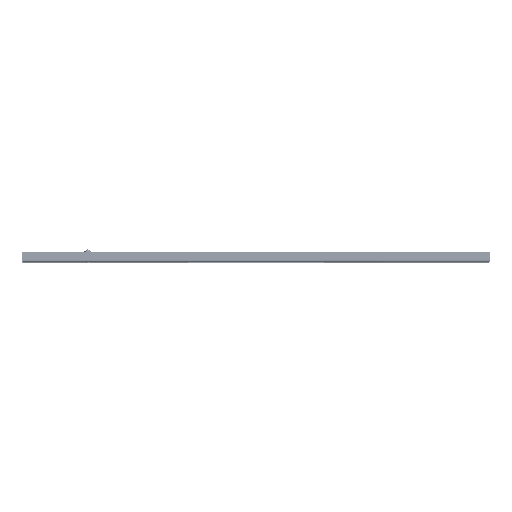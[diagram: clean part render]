
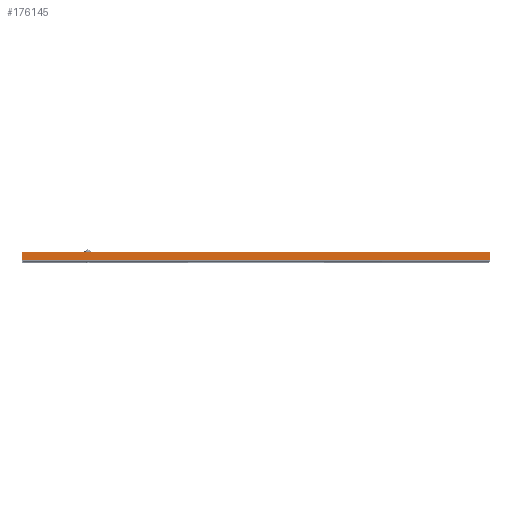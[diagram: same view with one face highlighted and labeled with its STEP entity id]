
A CAD part, top view. The second image highlights one B-rep face of the part: STEP entity #176145.
In plain terms, the highlighted planar face has unit normal (0, 0, 1).
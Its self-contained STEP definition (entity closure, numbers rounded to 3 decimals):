
#33668 = VERTEX_POINT ( 'NONE', #141248 ) ;
#33671 = VERTEX_POINT ( 'NONE', #141249 ) ;
#33682 = VERTEX_POINT ( 'NONE', #141254 ) ;
#33685 = VERTEX_POINT ( 'NONE', #141247 ) ;
#72986 = CARTESIAN_POINT ( 'NONE',  ( -15.586, 0.63, 17.693 ) ) ;
#73061 = DIRECTION ( 'NONE',  ( -1., 0., 0. ) ) ;
#73089 = CARTESIAN_POINT ( 'NONE',  ( 15.566, 0.06, 17.693 ) ) ;
#73091 = DIRECTION ( 'NONE',  ( 0., 1., 0. ) ) ;
#73099 = CARTESIAN_POINT ( 'NONE',  ( -15.587, 0.06, 17.693 ) ) ;
#73101 = DIRECTION ( 'NONE',  ( -1., 0., 0. ) ) ;
#73109 = CARTESIAN_POINT ( 'NONE',  ( -15.566, 0.06, 17.693 ) ) ;
#73111 = DIRECTION ( 'NONE',  ( 0., 1., 0. ) ) ;
#73692 = VECTOR ( 'NONE', #73061, 39.37 ) ;
#73699 = LINE ( 'NONE', #72986, #73692 ) ;
#73709 = LINE ( 'NONE', #73089, #73710 ) ;
#73710 = VECTOR ( 'NONE', #73091, 39.37 ) ;
#73713 = LINE ( 'NONE', #73099, #73714 ) ;
#73714 = VECTOR ( 'NONE', #73101, 39.37 ) ;
#73717 = LINE ( 'NONE', #73109, #73718 ) ;
#73718 = VECTOR ( 'NONE', #73111, 39.37 ) ;
#136123 = FACE_OUTER_BOUND ( 'NONE', #220926, .T. ) ;
#141247 = CARTESIAN_POINT ( 'NONE',  ( -15.566, 0.06, 17.693 ) ) ;
#141248 = CARTESIAN_POINT ( 'NONE',  ( 15.566, 0.63, 17.693 ) ) ;
#141249 = CARTESIAN_POINT ( 'NONE',  ( -15.566, 0.63, 17.693 ) ) ;
#141254 = CARTESIAN_POINT ( 'NONE',  ( 15.566, 0.06, 17.693 ) ) ;
#145217 = AXIS2_PLACEMENT_3D ( 'NONE', #147146, #147157, #147159 ) ;
#147146 = CARTESIAN_POINT ( 'NONE',  ( -15.586, 0.63, 17.693 ) ) ;
#147148 = PLANE ( 'NONE',  #145217 ) ;
#147157 = DIRECTION ( 'NONE',  ( 0., 0., -1. ) ) ;
#147159 = DIRECTION ( 'NONE',  ( -1., 0., 0. ) ) ;
#176145 = ADVANCED_FACE ( 'NONE', ( #136123 ), #147148, .F. ) ;
#194817 = ORIENTED_EDGE ( 'NONE', *, *, #224558, .F. ) ;
#194821 = ORIENTED_EDGE ( 'NONE', *, *, #224556, .T. ) ;
#194825 = ORIENTED_EDGE ( 'NONE', *, *, #224550, .T. ) ;
#194829 = ORIENTED_EDGE ( 'NONE', *, *, #224560, .F. ) ;
#220926 = EDGE_LOOP ( 'NONE', ( #194817, #194821, #194825, #194829 ) ) ;
#224550 = EDGE_CURVE ( 'NONE', #33668, #33671, #73699, .T. ) ;
#224556 = EDGE_CURVE ( 'NONE', #33682, #33668, #73709, .T. ) ;
#224558 = EDGE_CURVE ( 'NONE', #33682, #33685, #73713, .T. ) ;
#224560 = EDGE_CURVE ( 'NONE', #33685, #33671, #73717, .T. ) ;
